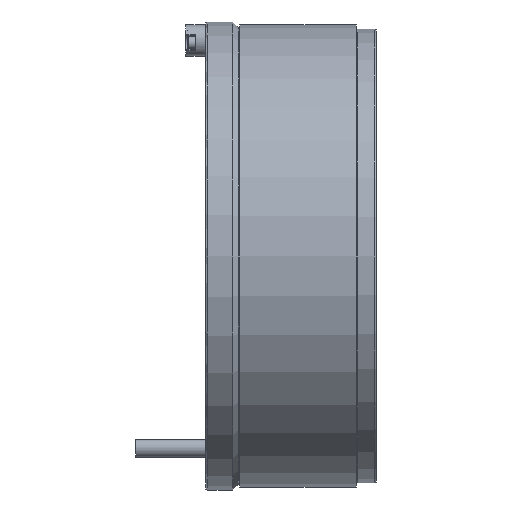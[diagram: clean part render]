
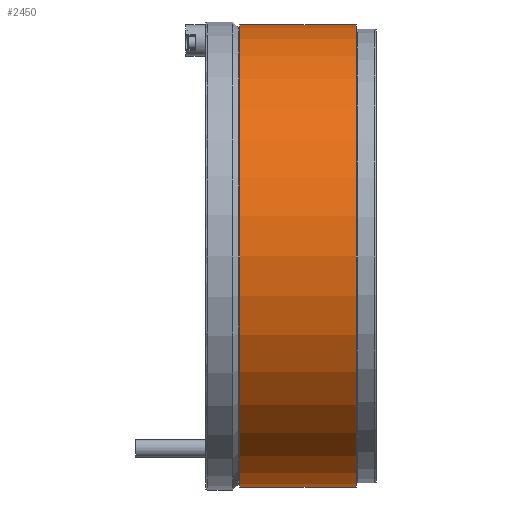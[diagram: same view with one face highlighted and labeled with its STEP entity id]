
A CAD part, left-side view. The second image highlights one B-rep face of the part: STEP entity #2450.
In plain terms, the highlighted cylindrical face has radius 162.5 mm (diameter 325 mm), a partial arc.
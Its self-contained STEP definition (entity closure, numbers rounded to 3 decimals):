
#829 = CARTESIAN_POINT ( 'NONE',  ( 0., 96., -162.5 ) ) ;
#1040 = DIRECTION ( 'NONE',  ( 0., 0., -1. ) ) ;
#1282 = CIRCLE ( 'NONE', #12930, 162.5 ) ;
#1825 = EDGE_LOOP ( 'NONE', ( #5808, #6412, #6349, #4097 ) ) ;
#1851 = VERTEX_POINT ( 'NONE', #829 ) ;
#1900 = FACE_OUTER_BOUND ( 'NONE', #1825, .T. ) ;
#2049 = DIRECTION ( 'NONE',  ( 0., -1., 0. ) ) ;
#2292 = EDGE_CURVE ( 'NONE', #4131, #8917, #8223, .T. ) ;
#2450 = ADVANCED_FACE ( 'NONE', ( #1900 ), #9077, .T. ) ;
#3016 = EDGE_CURVE ( 'NONE', #4131, #1851, #10898, .T. ) ;
#3206 = CARTESIAN_POINT ( 'NONE',  ( 0., 0., -162.5 ) ) ;
#3714 = CARTESIAN_POINT ( 'NONE',  ( 0., 14., 162.5 ) ) ;
#4097 = ORIENTED_EDGE ( 'NONE', *, *, #13547, .F. ) ;
#4131 = VERTEX_POINT ( 'NONE', #9906 ) ;
#5213 = CARTESIAN_POINT ( 'NONE',  ( 0., 14., 0. ) ) ;
#5364 = DIRECTION ( 'NONE',  ( 0., -1., 0. ) ) ;
#5643 = VECTOR ( 'NONE', #13783, 1000. ) ;
#5808 = ORIENTED_EDGE ( 'NONE', *, *, #2292, .F. ) ;
#6292 = DIRECTION ( 'NONE',  ( 0., -1., 0. ) ) ;
#6349 = ORIENTED_EDGE ( 'NONE', *, *, #10908, .T. ) ;
#6412 = ORIENTED_EDGE ( 'NONE', *, *, #3016, .T. ) ;
#6577 = DIRECTION ( 'NONE',  ( 0., 0., -1. ) ) ;
#7203 = AXIS2_PLACEMENT_3D ( 'NONE', #8658, #12927, #11959 ) ;
#7492 = CARTESIAN_POINT ( 'NONE',  ( 0., 14., -162.5 ) ) ;
#8223 = LINE ( 'NONE', #8344, #13755 ) ;
#8344 = CARTESIAN_POINT ( 'NONE',  ( 0., 0., 162.5 ) ) ;
#8658 = CARTESIAN_POINT ( 'NONE',  ( 0., 96., 0. ) ) ;
#8751 = VERTEX_POINT ( 'NONE', #7492 ) ;
#8917 = VERTEX_POINT ( 'NONE', #3714 ) ;
#9077 = CYLINDRICAL_SURFACE ( 'NONE', #12217, 162.5 ) ;
#9906 = CARTESIAN_POINT ( 'NONE',  ( 0., 96., 162.5 ) ) ;
#10898 = CIRCLE ( 'NONE', #7203, 162.5 ) ;
#10908 = EDGE_CURVE ( 'NONE', #1851, #8751, #11320, .T. ) ;
#11320 = LINE ( 'NONE', #3206, #5643 ) ;
#11959 = DIRECTION ( 'NONE',  ( 0., 0., -1. ) ) ;
#12217 = AXIS2_PLACEMENT_3D ( 'NONE', #12858, #5364, #6577 ) ;
#12858 = CARTESIAN_POINT ( 'NONE',  ( 0., 0., 0. ) ) ;
#12927 = DIRECTION ( 'NONE',  ( 0., -1., 0. ) ) ;
#12930 = AXIS2_PLACEMENT_3D ( 'NONE', #5213, #2049, #1040 ) ;
#13547 = EDGE_CURVE ( 'NONE', #8917, #8751, #1282, .T. ) ;
#13755 = VECTOR ( 'NONE', #6292, 1000. ) ;
#13783 = DIRECTION ( 'NONE',  ( 0., -1., 0. ) ) ;
